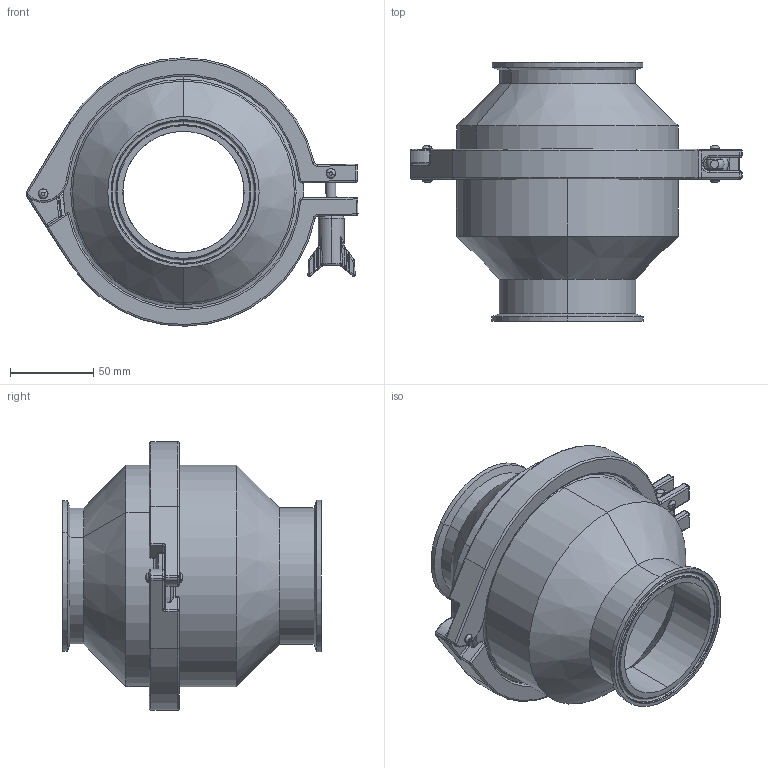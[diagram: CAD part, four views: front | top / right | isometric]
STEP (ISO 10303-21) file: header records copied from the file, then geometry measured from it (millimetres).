
FILE_DESCRIPTION (( 'STEP AP203' ), '1' );
FILE_NAME ('45C-6 3.0.STEP', '2019-11-14T20:39:58', ( 'vneprd' ), ( 'Microsoft' ), 'SwSTEP 2.0', 'SolidWorks 2018', '' );
FILE_SCHEMA (( 'CONFIG_CONTROL_DESIGN' ));
Length unit declared in the file: inch
Products named in the file (1): 45C-6 3.0
Bounding box: 199.48 x 155.57 x 161.29 mm (x, y, z)
Surface area: 186535.7 mm2 (no closed solid volume)
Topology: 0 solids, 11 shells, 500 faces, 1223 edges, 692 vertices
Faces by surface type: cylinder 161, torus 129, bspline 70, plane 66, cone 40, sphere 34
Entity records: 17715 total; most frequent: CARTESIAN_POINT 6483, DIRECTION 2511, ORIENTED_EDGE 2213, EDGE_CURVE 1179, AXIS2_PLACEMENT_3D 1096, VERTEX_POINT 682, CIRCLE 665, EDGE_LOOP 523
